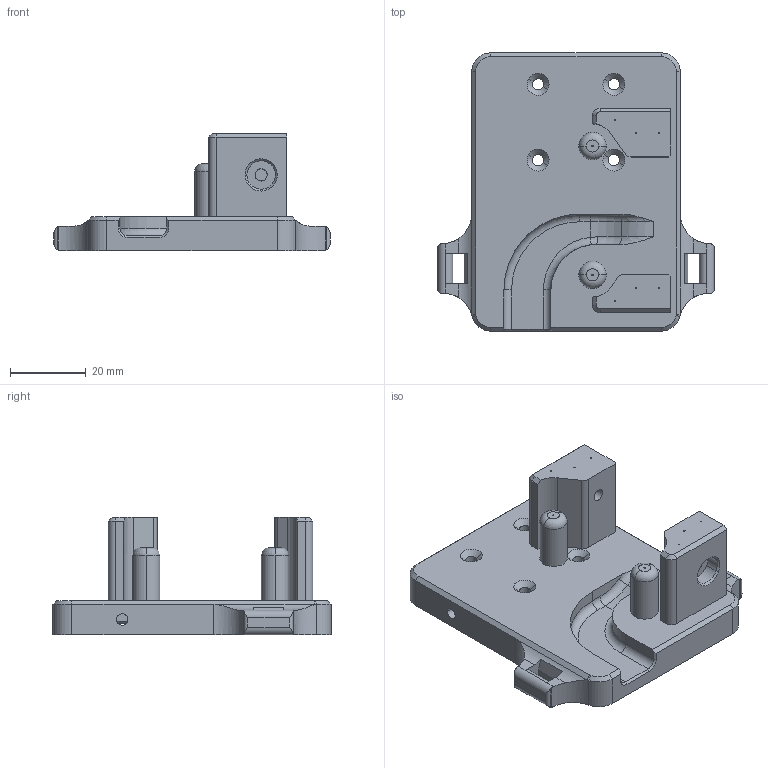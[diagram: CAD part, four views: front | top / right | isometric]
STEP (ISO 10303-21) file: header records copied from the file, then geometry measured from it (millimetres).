
FILE_DESCRIPTION(('CATIA V5 STEP Exchange'),'2;1');
FILE_NAME('C:\Users\loren\Desktop\HEMERA_MATRIX\BRACKET\BRACKET LINEAR GUIDE MGN12_Dadi.stp','2021-06-21T21:02:26+00:00',('none'),('none'),'CATIA Version 5 Release 20 SP 1 (IN-10)','CATIA V5 STEP AP214','none');
FILE_SCHEMA(('AUTOMOTIVE_DESIGN { 1 0 10303 214 1 1 1 1 }'));
Length unit declared in the file: millimetre
Products named in the file (1): Soporte_cabezal_Impresion_GL_MOD
Bounding box: 73 x 73.4 x 31 mm (x, y, z)
Volume: 40105.3 mm3; surface area: 15733.9 mm2
Topology: 1 solids, 1 shells, 245 faces, 660 edges, 422 vertices
Faces by surface type: plane 117, cylinder 87, cone 30, torus 10, bspline 1
Entity records: 7439 total; most frequent: CARTESIAN_POINT 1593, ORIENTED_EDGE 1320, DIRECTION 966, EDGE_CURVE 660, VERTEX_POINT 422, AXIS2_PLACEMENT_3D 396, VECTOR 384, LINE 384
